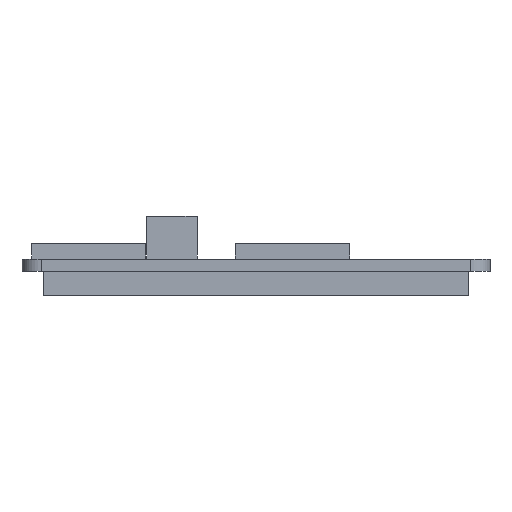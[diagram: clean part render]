
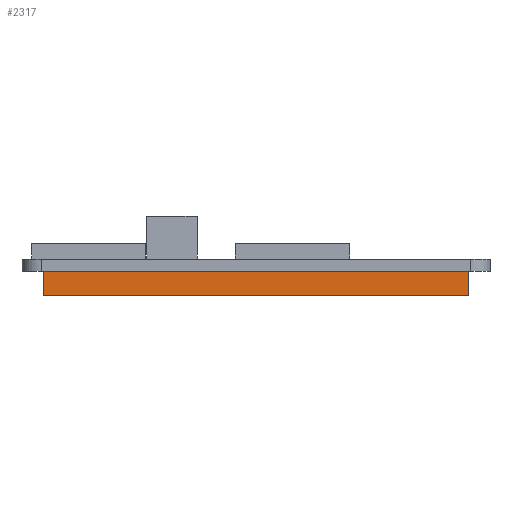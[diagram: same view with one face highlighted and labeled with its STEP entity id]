
A CAD part, left-side view. The second image highlights one B-rep face of the part: STEP entity #2317.
In plain terms, the highlighted planar face has unit normal (-1, 0, 0).
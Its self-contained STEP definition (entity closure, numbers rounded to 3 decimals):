
#438=DIRECTION('',(0.,1.,0.));
#439=VECTOR('',#438,5.587);
#440=CARTESIAN_POINT('',(233.843,235.586,-1.6));
#441=LINE('',#440,#439);
#454=DIRECTION('',(0.,1.,0.));
#455=VECTOR('',#454,8.306);
#456=CARTESIAN_POINT('',(233.843,246.253,-1.6));
#457=LINE('',#456,#455);
#472=DIRECTION('',(0.,1.,0.));
#473=VECTOR('',#472,8.433);
#474=CARTESIAN_POINT('',(233.843,271.983,-1.6));
#475=LINE('',#474,#473);
#488=DIRECTION('',(0.,1.,0.));
#489=VECTOR('',#488,5.59);
#490=CARTESIAN_POINT('',(233.843,285.496,-1.6));
#491=LINE('',#490,#489);
#672=DIRECTION('',(0.,0.,-1.));
#673=VECTOR('',#672,3.2);
#674=CARTESIAN_POINT('',(233.843,235.586,-1.6));
#675=LINE('',#674,#673);
#684=DIRECTION('',(0.,0.,-1.));
#685=VECTOR('',#684,3.2);
#686=CARTESIAN_POINT('',(233.843,291.086,-1.6));
#687=LINE('',#686,#685);
#688=DIRECTION('',(0.,1.,0.));
#689=VECTOR('',#688,55.5);
#690=CARTESIAN_POINT('',(233.843,235.586,-4.8));
#691=LINE('',#690,#689);
#752=DIRECTION('',(0.,1.,0.));
#753=VECTOR('',#752,17.425);
#754=CARTESIAN_POINT('',(233.843,254.559,-1.6));
#755=LINE('',#754,#753);
#756=DIRECTION('',(0.,1.,0.));
#757=VECTOR('',#756,5.08);
#758=CARTESIAN_POINT('',(233.843,280.416,-1.6));
#759=LINE('',#758,#757);
#760=DIRECTION('',(0.,1.,0.));
#761=VECTOR('',#760,5.08);
#762=CARTESIAN_POINT('',(233.843,241.173,-1.6));
#763=LINE('',#762,#761);
#1392=CARTESIAN_POINT('',(233.843,235.586,-4.8));
#1393=CARTESIAN_POINT('',(233.843,291.086,-4.8));
#1394=VERTEX_POINT('',#1392);
#1395=VERTEX_POINT('',#1393);
#1400=CARTESIAN_POINT('',(233.843,235.586,-1.6));
#1401=CARTESIAN_POINT('',(233.843,241.173,-1.6));
#1402=VERTEX_POINT('',#1400);
#1403=VERTEX_POINT('',#1401);
#1404=CARTESIAN_POINT('',(233.843,246.253,-1.6));
#1405=CARTESIAN_POINT('',(233.843,254.559,-1.6));
#1406=VERTEX_POINT('',#1404);
#1407=VERTEX_POINT('',#1405);
#1408=CARTESIAN_POINT('',(233.843,271.983,-1.6));
#1409=CARTESIAN_POINT('',(233.843,280.416,-1.6));
#1410=VERTEX_POINT('',#1408);
#1411=VERTEX_POINT('',#1409);
#1412=CARTESIAN_POINT('',(233.843,285.496,-1.6));
#1413=CARTESIAN_POINT('',(233.843,291.086,-1.6));
#1414=VERTEX_POINT('',#1412);
#1415=VERTEX_POINT('',#1413);
#2294=CARTESIAN_POINT('',(233.843,235.586,-1.6));
#2295=DIRECTION('',(-1.,0.,0.));
#2296=DIRECTION('',(0.,1.,0.));
#2297=AXIS2_PLACEMENT_3D('',#2294,#2295,#2296);
#2298=PLANE('',#2297);
#2299=ORIENTED_EDGE('',*,*,#1844,.F.);
#2301=ORIENTED_EDGE('',*,*,#2300,.T.);
#2303=ORIENTED_EDGE('',*,*,#2302,.T.);
#2305=ORIENTED_EDGE('',*,*,#2304,.F.);
#2306=ORIENTED_EDGE('',*,*,#1868,.F.);
#2308=ORIENTED_EDGE('',*,*,#2307,.F.);
#2309=ORIENTED_EDGE('',*,*,#1860,.F.);
#2311=ORIENTED_EDGE('',*,*,#2310,.F.);
#2312=ORIENTED_EDGE('',*,*,#1852,.F.);
#2314=ORIENTED_EDGE('',*,*,#2313,.F.);
#2315=EDGE_LOOP('',(#2299,#2301,#2303,#2305,#2306,#2308,#2309,#2311,#2312,
#2314));
#2316=FACE_OUTER_BOUND('',#2315,.F.);
#1844=EDGE_CURVE('',#1402,#1403,#441,.T.);
#1852=EDGE_CURVE('',#1406,#1407,#457,.T.);
#1860=EDGE_CURVE('',#1410,#1411,#475,.T.);
#1868=EDGE_CURVE('',#1414,#1415,#491,.T.);
#2300=EDGE_CURVE('',#1402,#1394,#675,.T.);
#2302=EDGE_CURVE('',#1394,#1395,#691,.T.);
#2304=EDGE_CURVE('',#1415,#1395,#687,.T.);
#2307=EDGE_CURVE('',#1411,#1414,#759,.T.);
#2310=EDGE_CURVE('',#1407,#1410,#755,.T.);
#2313=EDGE_CURVE('',#1403,#1406,#763,.T.);
#2317=ADVANCED_FACE('',(#2316),#2298,.T.);
